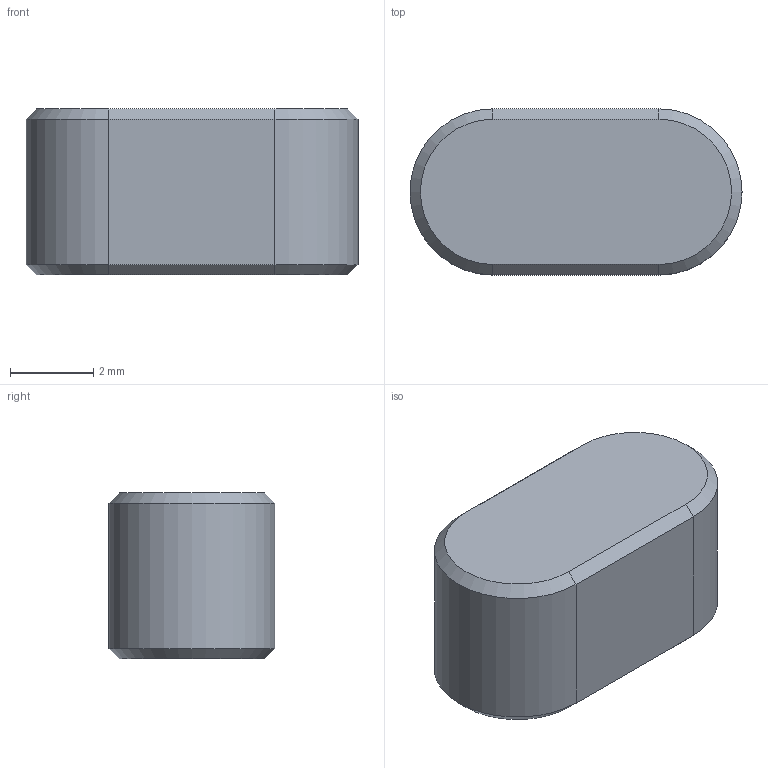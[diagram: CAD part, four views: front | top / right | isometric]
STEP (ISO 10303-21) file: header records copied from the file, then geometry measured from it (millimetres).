
FILE_DESCRIPTION(/* description */ ('평행 키'),/* implementation_level */ '2;1');
FILE_NAME(/* name */ '',/* time_stamp */ '2024-04-08T11:15:08+09:00',/* author */ ('jhkim'),/* organization */ (''),/* preprocessor_version */ 'ST-DEVELOPER v20',/* originating_system */ 'Autodesk Inventor 2025',/* authorisation */ '');
FILE_SCHEMA (('AUTOMOTIVE_DESIGN { 1 0 10303 214 3 1 1 }'));
Length unit declared in the file: millimetre
Products named in the file (1): 평행키 4x4x8
Bounding box: 8 x 4 x 4 mm (x, y, z)
Volume: 113 mm3; surface area: 133.2 mm2
Topology: 1 solids, 1 shells, 14 faces, 28 edges, 16 vertices
Faces by surface type: plane 8, cone 4, cylinder 2
Entity records: 399 total; most frequent: DIRECTION 66, CARTESIAN_POINT 59, ORIENTED_EDGE 56, EDGE_CURVE 28, AXIS2_PLACEMENT_3D 23, LINE 20, VECTOR 20, VERTEX_POINT 16
